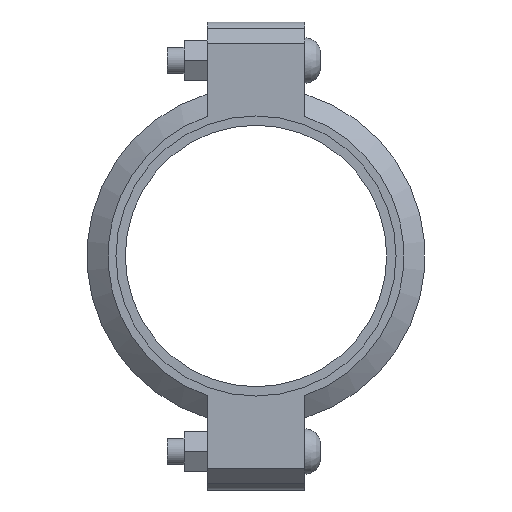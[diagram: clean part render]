
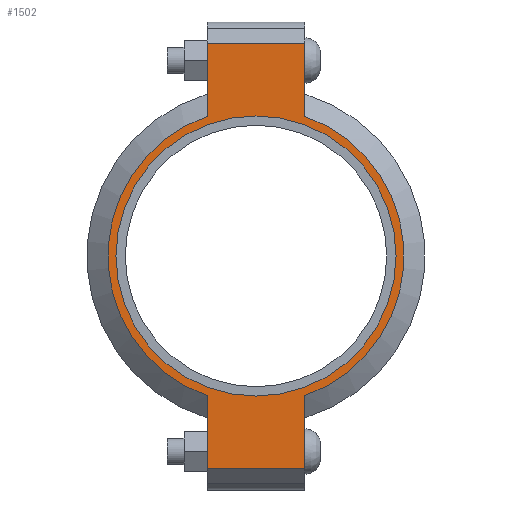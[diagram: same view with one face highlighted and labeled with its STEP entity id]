
A CAD part, left-side view. The second image highlights one B-rep face of the part: STEP entity #1502.
In plain terms, the highlighted planar face has unit normal (-1, 0, 0) as drawn and (0, 0, 1) by its records, which use the part's own axes.
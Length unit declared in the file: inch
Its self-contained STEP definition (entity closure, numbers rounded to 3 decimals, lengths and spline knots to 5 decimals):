
#126=LINE('',#2630,#219);
#134=LINE('',#2666,#227);
#141=LINE('',#2687,#234);
#150=LINE('',#2719,#243);
#151=LINE('',#2723,#244);
#152=LINE('',#2725,#245);
#219=VECTOR('',#2154,0.3937);
#227=VECTOR('',#2170,0.3937);
#234=VECTOR('',#2189,0.3937);
#243=VECTOR('',#2214,0.3937);
#244=VECTOR('',#2219,0.3937);
#245=VECTOR('',#2220,0.3937);
#301=FACE_BOUND('',#479,.T.);
#373=FACE_OUTER_BOUND('',#478,.T.);
#478=EDGE_LOOP('',(#1243,#1244,#1245,#1246,#1247,#1248,#1249,#1250));
#479=EDGE_LOOP('',(#1251));
#551=CIRCLE('',#1730,3.3125);
#577=CIRCLE('',#1789,3.5);
#578=CIRCLE('',#1790,3.5);
#643=VERTEX_POINT('',#2446);
#686=VERTEX_POINT('',#2627);
#687=VERTEX_POINT('',#2629);
#698=VERTEX_POINT('',#2661);
#699=VERTEX_POINT('',#2665);
#706=VERTEX_POINT('',#2684);
#707=VERTEX_POINT('',#2686);
#717=VERTEX_POINT('',#2722);
#718=VERTEX_POINT('',#2724);
#799=EDGE_CURVE('',#643,#643,#551,.T.);
#860=EDGE_CURVE('',#687,#686,#126,.T.);
#874=EDGE_CURVE('',#699,#698,#134,.T.);
#884=EDGE_CURVE('',#707,#706,#141,.T.);
#899=EDGE_CURVE('',#699,#686,#150,.T.);
#900=EDGE_CURVE('',#698,#707,#577,.T.);
#901=EDGE_CURVE('',#717,#706,#151,.T.);
#902=EDGE_CURVE('',#717,#718,#152,.T.);
#903=EDGE_CURVE('',#718,#687,#578,.T.);
#1243=ORIENTED_EDGE('',*,*,#899,.F.);
#1244=ORIENTED_EDGE('',*,*,#874,.T.);
#1245=ORIENTED_EDGE('',*,*,#900,.T.);
#1246=ORIENTED_EDGE('',*,*,#884,.T.);
#1247=ORIENTED_EDGE('',*,*,#901,.F.);
#1248=ORIENTED_EDGE('',*,*,#902,.T.);
#1249=ORIENTED_EDGE('',*,*,#903,.T.);
#1250=ORIENTED_EDGE('',*,*,#860,.T.);
#1251=ORIENTED_EDGE('',*,*,#799,.T.);
#1344=PLANE('',#1788);
#1502=ADVANCED_FACE('',(#373,#301),#1344,.T.);
#1730=AXIS2_PLACEMENT_3D('',#2448,#2030,#2031);
#1788=AXIS2_PLACEMENT_3D('',#2720,#2215,#2216);
#1789=AXIS2_PLACEMENT_3D('',#2721,#2217,#2218);
#1790=AXIS2_PLACEMENT_3D('',#2726,#2221,#2222);
#2030=DIRECTION('center_axis',(0.,0.,-1.));
#2031=DIRECTION('ref_axis',(1.,0.,0.));
#2154=DIRECTION('',(1.,0.,0.));
#2170=DIRECTION('',(-1.,0.,0.));
#2189=DIRECTION('',(-1.,0.,0.));
#2214=DIRECTION('',(0.,-1.,0.));
#2215=DIRECTION('center_axis',(0.,0.,1.));
#2216=DIRECTION('ref_axis',(-1.,0.,0.));
#2217=DIRECTION('center_axis',(0.,0.,1.));
#2218=DIRECTION('ref_axis',(1.,0.,0.));
#2219=DIRECTION('',(0.,1.,0.));
#2220=DIRECTION('',(1.,0.,0.));
#2221=DIRECTION('center_axis',(0.,0.,1.));
#2222=DIRECTION('ref_axis',(1.,0.,0.));
#2446=CARTESIAN_POINT('',(-3.3125,0.,1.065));
#2448=CARTESIAN_POINT('Origin',(0.,0.,1.065));
#2627=CARTESIAN_POINT('',(5.035,-1.156,1.065));
#2629=CARTESIAN_POINT('',(3.30358,-1.156,1.065));
#2630=CARTESIAN_POINT('',(5.535,-1.156,1.065));
#2661=CARTESIAN_POINT('',(3.30358,1.156,1.065));
#2665=CARTESIAN_POINT('',(5.035,1.156,1.065));
#2666=CARTESIAN_POINT('',(-5.535,1.156,1.065));
#2684=CARTESIAN_POINT('',(-5.035,1.156,1.065));
#2686=CARTESIAN_POINT('',(-3.30358,1.156,1.065));
#2687=CARTESIAN_POINT('',(-5.535,1.156,1.065));
#2719=CARTESIAN_POINT('',(5.035,-0.578,1.065));
#2720=CARTESIAN_POINT('Origin',(0.,0.,
1.065));
#2721=CARTESIAN_POINT('Origin',(0.,0.,1.065));
#2722=CARTESIAN_POINT('',(-5.035,-1.156,1.065));
#2723=CARTESIAN_POINT('',(-5.035,0.578,1.065));
#2724=CARTESIAN_POINT('',(-3.30358,-1.156,1.065));
#2725=CARTESIAN_POINT('',(5.535,-1.156,1.065));
#2726=CARTESIAN_POINT('Origin',(0.,0.,1.065));
